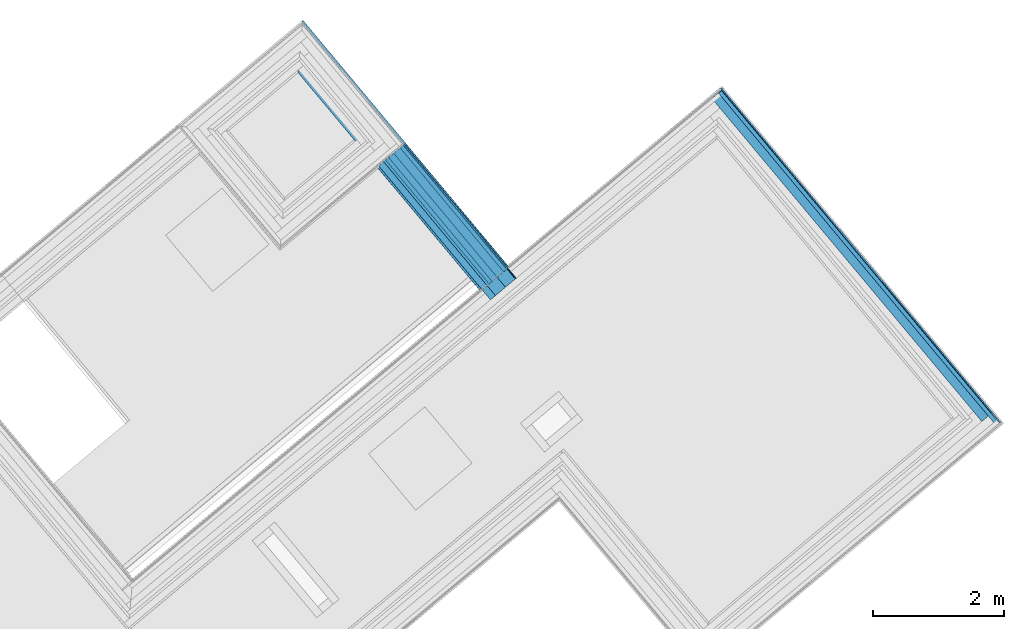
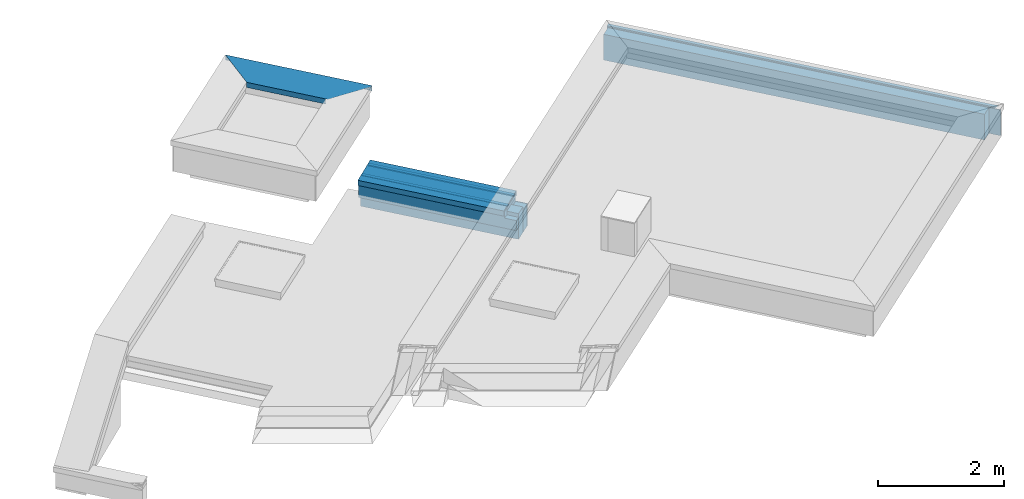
# One storey, part 13 of 15: 13 building element parts, 3 elements without a shape of their own.
"""IFC4 building model written with IfcOpenShell, lengths in metres."""

from ifc_helpers import new_model, entity, si_unit, converted_unit, derived_unit, direction, frame, origin_with_axes, place, context, subcontext, project, spatial, polygons, material, type_object, element, aggregate, save


model = new_model("IFC4")

# Units and contexts
model_context = context("Model", 3, precision=1e-05, world=origin_with_axes(), true_north=direction((0.0, 1.0)))
body_context = subcontext(model_context, "Body", "Model", "MODEL_VIEW")
ifc_project = project(units=[si_unit("LENGTHUNIT", "METRE"), si_unit("AREAUNIT", "SQUARE_METRE"), si_unit("VOLUMEUNIT", "CUBIC_METRE"), converted_unit("PLANEANGLEUNIT", "DEGREE", entity("IfcPlaneAngleMeasure", 0.0174532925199), si_unit("PLANEANGLEUNIT", "RADIAN"), dimensions=[0, 0, 0, 0, 0, 0, 0]), converted_unit("TIMEUNIT", "Year", entity("IfcTimeMeasure", 31556926.0), si_unit("TIMEUNIT", "SECOND"), dimensions=[0, 0, 1, 0, 0, 0, 0]), si_unit("MASSUNIT", "GRAM", prefix="KILO"), si_unit("THERMODYNAMICTEMPERATUREUNIT", "DEGREE_CELSIUS"), si_unit("LUMINOUSINTENSITYUNIT", "LUMEN"), si_unit("ENERGYUNIT", "JOULE", prefix="MEGA"), derived_unit("THERMALCONDUCTANCEUNIT", [(si_unit("POWERUNIT", "WATT"), 1), (si_unit("LENGTHUNIT", "METRE"), -1), (si_unit("THERMODYNAMICTEMPERATUREUNIT", "KELVIN"), -1)]), derived_unit("SPECIFICHEATCAPACITYUNIT", [(si_unit("ENERGYUNIT", "JOULE"), 1), (si_unit("MASSUNIT", "GRAM", prefix="KILO"), -1), (si_unit("THERMODYNAMICTEMPERATUREUNIT", "KELVIN"), -1)]), derived_unit("MASSDENSITYUNIT", [(si_unit("MASSUNIT", "GRAM", prefix="KILO"), 1), (si_unit("VOLUMEUNIT", "CUBIC_METRE"), -1)])], contexts=[model_context])

# Site, building, storey
site_placement = place(None, frame((-0.00153261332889, -0.00661245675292, 0.0), z_axis=(0.0, 0.0, 1.0), x_axis=(1.0, 0.0, 0.0)))
site = spatial("IfcSite", under=ifc_project, at=site_placement, Name="Site", CompositionType="ELEMENT")
building_placement = place(site_placement, origin_with_axes())
building = spatial("IfcBuilding", under=site, at=building_placement, Name="Building", CompositionType="ELEMENT")
storey_placement = place(building_placement, frame((0.0, 0.0, 11.84), z_axis=(0.0, 0.0, 1.0), x_axis=(1.0, 0.0, 0.0)))
storey = spatial("IfcBuildingStorey", under=building, at=storey_placement, Name="DA", CompositionType="ELEMENT", Elevation=11.84)

# Wall, building element part
wall_type_1 = type_object("IfcWallType", Name="Bauteil - Attika 574 x 610", PredefinedType="NOTDEFINED")
wall_1_placement = place(storey_placement, frame((1.62788776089, 27.3539711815, 0.96), z_axis=(0.0, 0.0, 1.0), x_axis=(0.641209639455, -0.767365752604, 0.0)))
wall_1 = element("IfcWall", 1, at=wall_1_placement, inside=storey, type_object=wall_type_1, Name="Wand-002", PredefinedType="NOTDEFINED")
ifc_material_1 = material(Name="Stahl")
building_element_part_1_placement = place(wall_1_placement, origin_with_axes())
building_element_part_1 = element("IfcBuildingElementPart", 2, at=building_element_part_1_placement, material=ifc_material_1, Name="Stahl", PredefinedType="NOTDEFINED", context=body_context, shape_type="Tessellation", body=[
    polygons([(0.332051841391, -0.332051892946, 0.491006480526), (0.332051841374, -0.332051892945, 0.489652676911), (1.67100741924, -0.332051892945, 0.489652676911), (1.67236122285, -0.332051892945, 0.491006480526), (1.67044667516, -0.332051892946, 0.491006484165), (1.67044667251, -0.332051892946, 0.498822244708), (1.67044667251, -0.332051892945, 0.499999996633), (1.67044667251, -0.332051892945, 0.509050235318), (1.67044667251, -0.332051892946, 0.51136132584), (1.67044667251, -0.332051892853, 0.519224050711), (1.67044667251, -0.332051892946, 0.560000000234), (1.67044667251, -0.332051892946, 0.56794797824), (1.67044667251, -0.332051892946, 0.57388065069), (1.67044667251, -0.332051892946, 0.575979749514), (1.67044667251, -0.332051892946, 0.584015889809), (1.67044667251, -0.332051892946, 0.586106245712), (1.6704466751, -0.332051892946, 0.587938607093), (0.332051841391, -0.332051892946, 0.589243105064), (0.332051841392, -0.332051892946, 0.587938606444), (0.332051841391, -0.332051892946, 0.586106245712), (0.332051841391, -0.332051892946, 0.584015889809), (0.332051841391, -0.332051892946, 0.575979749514), (0.332051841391, -0.332051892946, 0.573880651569), (0.332051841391, -0.332051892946, 0.567947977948), (0.332051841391, -0.332051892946, 0.560000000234), (0.332051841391, -0.332051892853, 0.519224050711), (0.332051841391, -0.332051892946, 0.51136132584), (0.332051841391, -0.332051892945, 0.509050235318), (0.332051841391, -0.332051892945, 0.499999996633), (0.332051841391, -0.332051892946, 0.498822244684), (0.332051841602, -0.330698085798, 0.491006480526), (0.332051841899, -0.32878353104, 0.491006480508), (0.332051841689, -0.33013733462, 0.489652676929), (0.331094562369, -0.331094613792, 0.488695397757), (1.67005013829, -0.331094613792, 0.488695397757), (1.67236121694, -0.328783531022, 0.491006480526), (1.67236122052, -0.330698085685, 0.491006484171), (1.67044667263, -0.330698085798, 0.491006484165), (1.67044666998, -0.330698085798, 0.498822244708), (1.67044666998, -0.330698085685, 0.499999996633), (1.67044666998, -0.330698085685, 0.509050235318), (1.67044666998, -0.330698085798, 0.51136132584), (1.67044666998, -0.330698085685, 0.519224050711), (1.67044666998, -0.330698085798, 0.560000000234), (1.67044666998, -0.330698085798, 0.56794797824), (1.67044666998, -0.330698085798, 0.57388065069), (1.67044666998, -0.330698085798, 0.575979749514), (1.67044666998, -0.330698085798, 0.584015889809), (1.67044666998, -0.330698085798, 0.586106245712), (1.67044671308, -0.330698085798, 0.587937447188), (1.67047086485, -0.332051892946, 0.587938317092), (0.332051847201, -0.294630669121, 0.589243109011), (0.332051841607, -0.330666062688, 0.587938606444), (0.332051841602, -0.330698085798, 0.587937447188), (0.332051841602, -0.330698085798, 0.586106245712), (0.332051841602, -0.330698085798, 0.584015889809), (0.332051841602, -0.330698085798, 0.575979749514), (0.332051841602, -0.330698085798, 0.573880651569), (0.332051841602, -0.330698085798, 0.567947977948), (0.332051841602, -0.330698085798, 0.560000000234), (0.332051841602, -0.330698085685, 0.519224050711), (0.332051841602, -0.330698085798, 0.51136132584), (0.332051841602, -0.330698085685, 0.509050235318), (0.332051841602, -0.330698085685, 0.499999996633), (0.332051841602, -0.330698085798, 0.498822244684), (0.330698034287, -0.330698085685, 0.491006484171), (0.330698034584, -0.328783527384, 0.491006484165), (0.323792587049, -0.321878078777, 0.497911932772), (1.67926665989, -0.321878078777, 0.497911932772), (1.67926666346, -0.323792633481, 0.497911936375), (1.67826241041, -0.32288233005, 0.498822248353), (0.322882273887, -0.32288233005, 0.498822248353), (2.2404201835, 0.239276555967, 0.608570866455), (2.24042025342, 0.201849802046, 0.608570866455), (1.70651414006, -0.332051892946, 0.589243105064), (-0.201849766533, 0.201849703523, 0.608570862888), (-0.201849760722, 0.239276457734, 0.608570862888), (2.24129656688, 0.202730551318, 0.608602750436), (2.24129649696, 0.240152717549, 0.608602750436), (2.24264401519, 0.202730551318, 0.608602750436), (2.24264394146, 0.241500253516, 0.610006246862), (-0.24150021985, 0.241500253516, 0.610006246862), (-0.202730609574, 0.202730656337, 0.608602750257), (-0.202730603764, 0.240152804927, 0.608602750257), (2.24264394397, 0.240152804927, 0.608602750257), (2.24264394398, 0.240146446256, 0.51136132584), (2.24264394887, 0.238231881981, 0.511361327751), (2.24264394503, 0.239585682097, 0.510007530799), (2.24264394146, 0.241500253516, 0.510007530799), (-0.240152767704, 0.241500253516, 0.608602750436), (-0.202730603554, 0.241500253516, 0.608602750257), (-0.239585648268, 0.241500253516, 0.510007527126), (-0.2382318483, 0.241500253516, 0.511361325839), (-0.240146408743, 0.241500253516, 0.51136132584), (-0.240146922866, 0.241500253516, 0.519224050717), (-0.240149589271, 0.241500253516, 0.560000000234), (-0.240150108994, 0.241500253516, 0.567947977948), (-0.240150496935, 0.241500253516, 0.573880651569), (-0.240150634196, 0.241500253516, 0.575979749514), (-0.240151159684, 0.241500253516, 0.584015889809), (-0.240151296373, 0.241500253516, 0.586106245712), (-0.240151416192, 0.241500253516, 0.587938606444), (-0.240152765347, 0.241500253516, 0.608570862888), (-0.240152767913, 0.240152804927, 0.608602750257), (-0.240152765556, 0.240152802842, 0.608570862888), (-0.240151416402, 0.240151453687, 0.587938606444), (-0.240151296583, 0.240151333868, 0.586106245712), (-0.240151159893, 0.240151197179, 0.584015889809), (-0.240150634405, 0.240150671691, 0.575979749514), (-0.240150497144, 0.24015053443, 0.573880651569), (-0.240150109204, 0.240150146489, 0.567947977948), (-0.240149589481, 0.240149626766, 0.560000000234), (-0.240146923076, 0.240146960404, 0.519224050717), (-0.240146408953, 0.240146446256, 0.51136132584), (-0.23823184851, 0.240146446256, 0.511361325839), (2.24129013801, 0.240146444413, 0.511361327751), (2.24129014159, 0.238231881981, 0.511361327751), (-0.231373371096, 0.231373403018, 0.518219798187), (-0.238231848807, 0.238231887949, 0.51136132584), (-0.240542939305, 0.240542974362, 0.509050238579), (2.24168666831, 0.240542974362, 0.509050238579), (2.23443167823, 0.231373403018, 0.518219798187), (-0.231373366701, 0.233287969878, 0.518219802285), (-0.232283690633, 0.232283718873, 0.51922405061), (2.23342742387, 0.232283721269, 0.519224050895)], [[[1, 2, 3, 4, 5, 6, 7, 8, 9, 10, 11, 12, 13, 14, 15, 16, 17, 18, 19, 20, 21, 22, 23, 24, 25, 26, 27, 28, 29, 30]], [[2, 1, 31, 32, 33]], [[2, 34, 35, 3]], [[3, 35, 36, 37, 4]], [[38, 5, 4, 37]], [[6, 5, 38, 39]], [[7, 6, 39, 40]], [[7, 40, 41, 8]], [[9, 8, 41, 42]], [[10, 9, 42, 43]], [[11, 10, 43, 44]], [[12, 11, 44, 45]], [[13, 12, 45, 46]], [[13, 46, 47, 14]], [[15, 14, 47, 48]], [[16, 15, 48, 49]], [[17, 16, 49, 50]], [[18, 17, 51]], [[19, 18, 52, 53, 54]], [[20, 19, 54, 55]], [[21, 20, 55, 56]], [[22, 21, 56, 57]], [[58, 23, 22, 57]], [[24, 23, 58, 59]], [[25, 24, 59, 60]], [[26, 25, 60, 61]], [[27, 26, 61, 62]], [[28, 27, 62, 63]], [[29, 28, 63, 64]], [[30, 29, 64, 65]], [[1, 30, 65, 31]], [[31, 66, 67, 32]], [[34, 33, 32, 67, 68, 69, 36, 35]], [[34, 2, 33]], [[37, 36, 69, 70]], [[66, 31, 38, 37, 70, 71, 72]], [[31, 65, 64, 63, 62, 61, 60, 59, 58, 57, 56, 55, 54, 50, 49, 48, 47, 46, 45, 44, 43, 42, 41, 40, 39, 38]], [[51, 17, 50, 73, 74, 75]], [[75, 18, 51]], [[52, 18, 76, 77]], [[54, 53, 52, 77, 73, 50]], [[67, 66, 72, 68]], [[68, 72, 71, 69]], [[71, 70, 69]], [[78, 74, 73, 79]], [[76, 18, 75, 74, 78, 80, 81, 82, 83]], [[76, 83, 84, 77]], [[77, 84, 79, 73]], [[80, 78, 79, 85]], [[86, 87, 88, 89, 81, 80, 85]], [[90, 91, 82, 81, 89, 92, 93, 94, 95, 96, 97, 98, 99, 100, 101, 102, 103]], [[83, 82, 91, 84]], [[84, 104, 105, 106, 107, 108, 109, 110, 111, 112, 113, 114, 115, 116, 86, 85, 79]], [[117, 87, 86, 116]], [[118, 119, 120, 121, 88, 87, 117, 122]], [[88, 121, 89]], [[84, 91, 90, 104]], [[120, 92, 89, 121]], [[120, 119, 115, 93, 92]], [[114, 94, 93, 115]], [[94, 114, 113, 95]], [[113, 112, 96, 95]], [[112, 111, 97, 96]], [[111, 110, 98, 97]], [[110, 109, 99, 98]], [[109, 108, 100, 99]], [[108, 107, 101, 100]], [[107, 106, 102, 101]], [[106, 105, 103, 102]], [[105, 104, 90, 103]], [[123, 124, 125, 116, 115]], [[122, 117, 116, 125]], [[118, 123, 115, 119]], [[124, 118, 122, 125]], [[118, 124, 123]]], closed=True),
])
aggregate(wall_1, [building_element_part_1])

# Wall, building element parts
wall_type_2 = type_object("IfcWallType", Name="Individuelles Profil 574 x 610", PredefinedType="NOTDEFINED")
wall_2_placement = place(storey_placement, frame((3.04882902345, 25.6533181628, -0.49), z_axis=(0.0, 0.0, 1.0), x_axis=(0.640875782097, -0.767644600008, 0.0)))
wall_2 = element("IfcWall", 3, at=wall_2_placement, inside=storey, type_object=wall_type_2, Name="Wand-004", PredefinedType="NOTDEFINED")
ifc_material_2 = material(Name="Zementputz")
building_element_part_2_placement = place(wall_2_placement, origin_with_axes())
building_element_part_2 = element("IfcBuildingElementPart", 4, at=building_element_part_2_placement, material=ifc_material_2, Name="Zementputz", PredefinedType="NOTDEFINED", context=body_context, shape_type="Tessellation", body=[
    polygons([(2.47622600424, 0.199999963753, 0.499999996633), (2.47621948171, 0.214999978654, 0.499999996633), (0.0, 0.214999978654, 0.5), (0.0, 0.199999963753, 0.5), (2.47621948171, 0.214999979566, 0.498822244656), (2.47622600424, 0.199999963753, 0.498822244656), (2.47621948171, 0.214999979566, 0.491006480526), (2.47621948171, 0.214999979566, 0.488695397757), (2.47621948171, 0.214999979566, 0.43), (2.67621946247, 0.214999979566, 0.43), (2.67630300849, 0.214999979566, 0.43), (2.67630300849, 0.214999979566, 0.0), (0.0, 0.214999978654, 0.0), (0.0, 0.199999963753, 0.0), (2.67630300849, 0.199999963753, 0.0), (2.67630300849, 0.199999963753, 0.43), (2.67622598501, 0.199999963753, 0.43), (2.47622600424, 0.199999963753, 0.43), (2.47622600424, 0.199999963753, 0.488695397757), (2.47622600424, 0.199999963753, 0.491006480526)], [[[1, 2, 3, 4]], [[5, 2, 1, 6]], [[2, 5, 7, 8, 9, 10, 11, 12, 13, 3]], [[14, 4, 3, 13]], [[6, 1, 4, 14, 15, 16, 17, 18, 19, 20]], [[5, 6, 20, 7]], [[7, 20, 19, 8]], [[8, 19, 18, 9]], [[17, 10, 9, 18]], [[10, 17, 16, 11]], [[11, 16, 15, 12]], [[13, 12, 15, 14]]], closed=True),
])
ifc_material_3 = material(Name="Vollholz")
building_element_part_3_placement = place(wall_2_placement, origin_with_axes())
building_element_part_3 = element("IfcBuildingElementPart", 5, at=building_element_part_3_placement, material=ifc_material_3, Name="Vollholz", PredefinedType="NOTDEFINED", context=body_context, shape_type="Tessellation", body=[
    polygons([(2.47625638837, 0.130124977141, 0.584015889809), (2.47623035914, 0.189984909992, 0.586106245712), (0.0, 0.189984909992, 0.586106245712), (0.0, 0.130124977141, 0.584015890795), (2.47623035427, 0.189996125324, 0.584015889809), (2.47623033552, 0.190039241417, 0.575979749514), (2.47623033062, 0.190050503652, 0.573880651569), (2.47623031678, 0.190082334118, 0.567947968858), (2.47623029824, 0.190124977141, 0.55999999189), (0.0, 0.190124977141, 0.560000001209), (0.0, 0.130124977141, 0.560000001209), (2.47625638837, 0.130124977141, 0.575979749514), (2.47625638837, 0.130124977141, 0.55999999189), (2.47625638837, 0.130124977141, 0.567947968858), (2.47625638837, 0.130124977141, 0.573880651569)], [[[1, 2, 3, 4]], [[5, 2, 1]], [[2, 5, 6, 7, 8, 9, 10, 3]], [[4, 3, 10, 11]], [[12, 1, 4, 11, 13, 14, 15]], [[5, 1, 12, 6]], [[6, 12, 15, 7]], [[7, 15, 14, 8]], [[8, 14, 13, 9]], [[9, 13, 11, 10]]], closed=True),
])
ifc_material_4 = material(Name="EPS 1")
building_element_part_4_placement = place(wall_2_placement, origin_with_axes())
building_element_part_4 = element("IfcBuildingElementPart", 6, at=building_element_part_4_placement, material=ifc_material_4, Name="EPS 1", PredefinedType="NOTDEFINED", context=body_context, shape_type="Tessellation", body=[
    polygons([(2.47631297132, -2.16659401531e-09, 0.43), (2.47631297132, -2.16659401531e-09, 0.488695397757), (2.47631297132, -2.16659756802e-09, 0.491006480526), (2.47631297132, -2.16659401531e-09, 0.498822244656), (2.47631297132, -2.16659401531e-09, 0.499999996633), (0.0, -2.16659046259e-09, 0.5), (0.0, -2.16659046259e-09, 0.0), (2.67630300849, -2.16659401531e-09, 0.0), (2.67630300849, -2.16659401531e-09, 0.430000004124), (2.47622600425, 0.19999996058, 0.43), (2.47622600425, 0.19999996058, 0.488695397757), (2.47622600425, 0.19999996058, 0.491006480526), (2.47622600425, 0.19999996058, 0.498822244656), (2.47622600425, 0.19999996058, 0.499999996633), (0.0, 0.19999996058, 0.5), (0.0, 0.19999996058, 0.0), (2.67630300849, 0.19999996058, 0.0), (2.67630300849, 0.19999996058, 0.430000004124), (2.67630300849, 0.0228656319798, 0.430000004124), (2.67622598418, 0.19999996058, 0.43)], [[[1, 2, 3, 4, 5, 6, 7, 8, 9]], [[2, 1, 10, 11]], [[3, 2, 11, 12]], [[4, 3, 12, 13]], [[5, 4, 13, 14]], [[6, 5, 14, 15]], [[7, 6, 15, 16]], [[7, 16, 17, 8]], [[9, 8, 17, 18, 19]], [[1, 9, 19, 20, 10]], [[16, 15, 14, 13, 12, 11, 10, 20, 18, 17]], [[19, 18, 20]]], closed=True),
])
ifc_material_5 = material(Name="Brettschichtholz")
building_element_part_5_placement = place(wall_2_placement, origin_with_axes())
building_element_part_5 = element("IfcBuildingElementPart", 7, at=building_element_part_5_placement, material=ifc_material_5, Name="Brettschichtholz", PredefinedType="NOTDEFINED", context=body_context, shape_type="Tessellation", body=[
    polygons([(2.47623029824, 0.190124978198, 0.55999999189), (2.47621948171, 0.214999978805, 0.55999999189), (0.0, 0.214999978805, 0.55999999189), (0.0, 0.190124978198, 0.560000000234), (2.47621948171, 0.214999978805, 0.519224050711), (2.47625638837, 0.130124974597, 0.55999999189), (2.47635645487, -0.0999999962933, 0.55999999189), (2.476382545, -0.159999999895, 0.55999999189), (2.47639993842, -0.200000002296, 0.55999999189), (2.47639993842, -0.200000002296, 0.519224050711), (2.47621948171, 0.214999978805, 0.51136132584), (2.47621948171, 0.214999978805, 0.509050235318), (2.47621948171, 0.214999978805, 0.499999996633), (0.0, 0.214999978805, 0.499999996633), (0.0, -0.200000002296, 0.499999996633), (0.0, -0.200000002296, 0.560000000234), (0.0, -0.159999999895, 0.560000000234), (0.0, -0.0999999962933, 0.560000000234), (0.0, 0.130124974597, 0.560000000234), (2.47639993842, -0.200000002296, 0.499999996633), (2.47639993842, -0.200000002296, 0.509050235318), (2.47639993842, -0.200000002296, 0.51136132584)], [[[1, 2, 3, 4]], [[5, 2, 1, 6, 7, 8, 9, 10]], [[2, 5, 11, 12, 13, 14, 3]], [[4, 3, 14, 15, 16, 17, 18, 19]], [[6, 1, 4, 19]], [[7, 6, 19, 18]], [[8, 7, 18, 17]], [[9, 8, 17, 16]], [[10, 9, 16, 15, 20, 21, 22]], [[5, 10, 22, 11]], [[11, 22, 21, 12]], [[12, 21, 20, 13]], [[13, 20, 15, 14]]], closed=True),
])
ifc_material_6 = material(Name="Stahlbeton Wand Garage")
building_element_part_6_placement = place(wall_2_placement, origin_with_axes())
building_element_part_6 = element("IfcBuildingElementPart", 8, at=building_element_part_6_placement, material=ifc_material_6, Name="Stahlbeton Wand Garage", PredefinedType="NOTDEFINED", context=body_context, shape_type="Tessellation", body=[
    polygons([(2.67639991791, -0.2, 0.499999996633), (2.67631295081, 0.0, 0.499999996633), (0.0, 0.0, 0.5), (0.0, -0.2, 0.5), (2.67631295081, 0.0, 0.498822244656), (2.67639991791, -0.200000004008, 0.498822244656), (2.67631295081, 0.0, 0.491006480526), (2.67631295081, 0.0, 0.488695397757), (2.67631295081, 4.32326885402e-09, 0.43), (2.67630300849, 0.0, 0.0), (0.0, 0.0, 0.0), (0.0, -0.2, 0.0), (0.0, -0.200000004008, 0.235000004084), (2.67630300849, -0.200000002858, 0.234999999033), (2.67630300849, -0.200000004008, 0.430000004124), (2.67639991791, -0.200000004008, 0.43), (2.67639991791, -0.200000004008, 0.488695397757), (2.67639991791, -0.200000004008, 0.491006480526), (2.67630300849, -0.200000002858, 0.0)], [[[1, 2, 3, 4]], [[5, 2, 1, 6]], [[2, 5, 7, 8, 9, 10, 11, 3]], [[12, 13, 4, 3, 11]], [[6, 1, 4, 13, 14, 15, 16, 17, 18]], [[5, 6, 18, 7]], [[7, 18, 17, 8]], [[8, 17, 16, 9]], [[19, 10, 9, 15, 14]], [[11, 10, 19, 12]], [[12, 19, 14, 13]], [[9, 16, 15]]], closed=True),
])
building_element_part_7_placement = place(wall_2_placement, origin_with_axes())
building_element_part_7 = element("IfcBuildingElementPart", 9, at=building_element_part_7_placement, material=ifc_material_3, Name="Vollholz", PredefinedType="NOTDEFINED", context=body_context, shape_type="Tessellation", body=[
    polygons([(2.47638259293, -0.160110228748, 0.573880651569), (2.47635645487, -0.1, 0.575979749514), (0.0, -0.1, 0.575979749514), (0.0, -0.160110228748, 0.573880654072), (2.47635645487, -0.1, 0.573880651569), (2.47635645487, -0.1, 0.567947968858), (2.47635645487, -0.1, 0.55999999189), (0.0, -0.1, 0.560000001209), (0.0, -0.16, 0.560000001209), (2.47638257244, -0.160063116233, 0.567947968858), (2.476382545, -0.16, 0.55999999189)], [[[1, 2, 3, 4]], [[5, 2, 1]], [[2, 5, 6, 7, 8, 3]], [[4, 3, 8, 9]], [[10, 1, 4, 9, 11]], [[5, 1, 10, 6]], [[6, 10, 11, 7]], [[7, 11, 9, 8]]], closed=True),
])
building_element_part_8_placement = place(wall_2_placement, origin_with_axes())
building_element_part_8 = element("IfcBuildingElementPart", 10, at=building_element_part_8_placement, material=ifc_material_4, Name="EPS 1", PredefinedType="NOTDEFINED", context=body_context, shape_type="Tessellation", body=[
    polygons([(2.47644342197, -0.300000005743, 0.488695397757), (2.47644342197, -0.300000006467, 0.43), (2.47639993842, -0.200000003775, 0.43), (2.47639993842, -0.200000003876, 0.488695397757), (2.47644342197, -0.300000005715, 0.491006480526), (2.47644342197, -0.300000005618, 0.498822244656), (2.47644342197, -0.300000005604, 0.499999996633), (2.47644342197, -0.300000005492, 0.509050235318), (2.47644342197, -0.300000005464, 0.51136132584), (2.47644342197, -0.300000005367, 0.519224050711), (2.47644342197, -0.300000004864, 0.55999999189), (0.0, -0.30000000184, 0.560000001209), (0.0, -0.30000000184, 0.235000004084), (2.67630300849, -0.300000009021, 0.234999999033), (2.67630300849, -0.300000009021, 0.430000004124), (2.67630300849, -0.200000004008, 0.430000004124), (0.0, -0.200000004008, 0.235000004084), (0.0, -0.200000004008, 0.560000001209), (2.47639993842, -0.200000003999, 0.55999999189), (2.47639993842, -0.200000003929, 0.519224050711), (2.47639993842, -0.200000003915, 0.51136132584), (2.47639993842, -0.200000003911, 0.509050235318), (2.47639993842, -0.200000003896, 0.499999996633), (2.47639993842, -0.200000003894, 0.498822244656), (2.47639993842, -0.20000000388, 0.491006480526), (2.67630300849, -0.200000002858, 0.234999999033)], [[[1, 2, 3, 4]], [[2, 1, 5, 6, 7, 8, 9, 10, 11, 12, 13, 14, 15]], [[3, 2, 15, 16]], [[17, 18, 19, 20, 21, 22, 23, 24, 25, 4, 3, 16, 26]], [[5, 1, 4, 25]], [[6, 5, 25, 24]], [[7, 6, 24, 23]], [[8, 7, 23, 22]], [[9, 8, 22, 21]], [[10, 9, 21, 20]], [[11, 10, 20, 19]], [[12, 11, 19, 18]], [[13, 12, 18, 17]], [[13, 17, 26, 14]], [[26, 16, 15, 14]]], closed=True),
])
ifc_material_7 = material(Name="Holzwerkstoff")
building_element_part_9_placement = place(wall_2_placement, origin_with_axes())
building_element_part_9 = element("IfcBuildingElementPart", 11, at=building_element_part_9_placement, material=ifc_material_7, Name="Holzwerkstoff", PredefinedType="NOTDEFINED", context=body_context, shape_type="Tessellation", body=[
    polygons([(2.47620892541, 0.239276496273, 0.608570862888), (2.4762086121, 0.239997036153, 0.587937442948), (2.47620861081, 0.239999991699, 0.587852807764), (0.0, 0.239999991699, 0.587852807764), (0.0, 0.239276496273, 0.608570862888), (2.47645677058, -0.330698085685, 0.587937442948), (2.47645674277, -0.330634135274, 0.586106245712), (2.47623035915, 0.189984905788, 0.586106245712), (0.0, 0.189984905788, 0.586106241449), (0.0, -0.330698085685, 0.587937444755), (0.0, 0.130124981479, 0.584015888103), (0.0, -0.0999999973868, 0.575979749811), (0.0, -0.160110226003, 0.573880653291), (0.0, -0.329999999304, 0.567947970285), (2.47645646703, -0.329999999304, 0.567947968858), (2.47645655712, -0.330207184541, 0.573880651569), (2.476456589, -0.330280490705, 0.575979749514), (2.47645671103, -0.330561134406, 0.584015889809), (2.47625638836, 0.130124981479, 0.584015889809), (2.47635645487, -0.0999999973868, 0.575979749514), (2.47638259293, -0.160110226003, 0.573880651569)], [[[1, 2, 3, 4, 5]], [[6, 2, 1]], [[2, 6, 7, 8, 3]], [[3, 8, 9, 4]], [[10, 5, 4, 9, 11, 12, 13, 14]], [[6, 1, 5, 10]], [[7, 6, 10, 14, 15, 16, 17, 18]], [[8, 7, 18, 19]], [[8, 19, 11, 9]], [[19, 20, 12, 11]], [[20, 21, 13, 12]], [[21, 15, 14, 13]], [[21, 16, 15]], [[20, 17, 16, 21]], [[19, 18, 17, 20]]], closed=True),
])
building_element_part_10_placement = place(wall_2_placement, origin_with_axes())
building_element_part_10 = element("IfcBuildingElementPart", 12, at=building_element_part_10_placement, material=ifc_material_1, Name="Stahl", PredefinedType="NOTDEFINED", context=body_context, shape_type="Tessellation", body=[
    polygons([(2.47645735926, -0.332051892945, 0.498822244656), (2.47645735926, -0.332051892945, 0.491006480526), (2.47645677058, -0.330698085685, 0.491006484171), (2.47645677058, -0.330698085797, 0.498822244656), (0.0, -0.332051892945, 0.489652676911), (2.47645735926, -0.332051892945, 0.489652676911), (2.47645735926, -0.332051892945, 0.500000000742), (2.47645735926, -0.332051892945, 0.509050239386), (2.47645735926, -0.332051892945, 0.51136132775), (2.47645735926, -0.332051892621, 0.519224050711), (2.47645735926, -0.332051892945, 0.559999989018), (2.47645735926, -0.332051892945, 0.567947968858), (2.47645735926, -0.332051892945, 0.573880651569), (2.47645735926, -0.332051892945, 0.575979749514), (2.47645735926, -0.332051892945, 0.584015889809), (2.47645735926, -0.332051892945, 0.586106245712), (2.47645735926, -0.332051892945, 0.587937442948), (2.47645735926, -0.332051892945, 0.58924311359), (0.0, -0.332051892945, 0.589243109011), (2.476456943, -0.331094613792, 0.488695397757), (2.47645593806, -0.328783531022, 0.491006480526), (0.0, -0.330698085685, 0.491006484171), (0.0, -0.330698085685, 0.587937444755), (2.47645677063, -0.330698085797, 0.587937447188), (2.47645677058, -0.330698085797, 0.586106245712), (2.47645677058, -0.330698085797, 0.584015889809), (2.47645677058, -0.330698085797, 0.575979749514), (2.47645677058, -0.330698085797, 0.573880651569), (2.47645677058, -0.330698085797, 0.567947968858), (2.47645677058, -0.330698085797, 0.559999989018), (2.47645677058, -0.330698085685, 0.519224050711), (2.47645677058, -0.330698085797, 0.51136132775), (2.47645677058, -0.330698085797, 0.509050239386), (2.47645677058, -0.330698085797, 0.500000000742), (0.0, -0.331094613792, 0.488695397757), (2.47620892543, 0.239276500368, 0.608570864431), (2.47622519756, 0.201855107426, 0.608570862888), (2.47622481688, 0.202730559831, 0.608602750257), (2.47620795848, 0.241500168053, 0.610006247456), (0.0, 0.241500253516, 0.610006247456), (0.0, 0.241500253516, 0.510007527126), (0.0, 0.240542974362, 0.509050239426), (0.0, 0.231373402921, 0.518219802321), (0.0, 0.232283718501, 0.519224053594), (0.0, 0.240146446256, 0.51136132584), (0.0, 0.240152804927, 0.608602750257), (0.0, 0.239276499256, 0.608570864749), (0.0, -0.32288233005, 0.498822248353), (0.0, -0.321878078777, 0.497911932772), (2.47645293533, -0.321878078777, 0.497911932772), (2.47645337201, -0.32288233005, 0.498822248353), (2.47620854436, 0.240152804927, 0.608602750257), (2.47620795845, 0.241500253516, 0.608602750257), (2.47620795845, 0.241500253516, 0.608570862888), (2.47620795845, 0.241500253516, 0.587937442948), (2.47620795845, 0.241500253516, 0.586106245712), (2.47620795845, 0.241500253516, 0.584015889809), (2.47620795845, 0.241500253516, 0.575979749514), (2.47620795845, 0.241500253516, 0.573880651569), (2.47620795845, 0.241500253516, 0.567947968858), (2.47620795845, 0.241500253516, 0.55999999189), (2.47620795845, 0.241500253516, 0.519224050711), (2.47620795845, 0.241500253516, 0.51136132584), (2.47620795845, 0.241500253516, 0.510007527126), (2.4762083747, 0.240542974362, 0.509050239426), (2.47620937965, 0.238231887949, 0.51136132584), (2.47621236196, 0.231373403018, 0.518219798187), (2.47621196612, 0.232283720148, 0.519224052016), (2.47620854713, 0.240146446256, 0.51136132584), (2.47620854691, 0.240146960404, 0.519224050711), (2.47620854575, 0.240149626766, 0.55999999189), (2.47620854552, 0.240150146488, 0.567947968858), (2.47620854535, 0.24015053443, 0.573880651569), (2.47620854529, 0.240150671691, 0.575979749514), (2.47620854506, 0.240151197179, 0.584015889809), (2.476208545, 0.240151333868, 0.586106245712), (2.47620854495, 0.240151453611, 0.587937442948), (2.47620854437, 0.240152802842, 0.608570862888)], [[[1, 2, 3, 4]], [[5, 6, 2, 1, 7, 8, 9, 10, 11, 12, 13, 14, 15, 16, 17, 18, 19]], [[2, 6, 20, 21, 3]], [[3, 22, 23, 24, 25, 26, 27, 28, 29, 30, 31, 32, 33, 34, 4]], [[1, 4, 34, 7]], [[6, 5, 35, 20]], [[7, 34, 33, 8]], [[9, 8, 33, 32]], [[10, 9, 32, 31]], [[11, 10, 31, 30]], [[12, 11, 30, 29]], [[13, 12, 29, 28]], [[14, 13, 28, 27]], [[14, 27, 26, 15]], [[16, 15, 26, 25]], [[17, 16, 25, 24]], [[18, 17, 24, 36, 37]], [[19, 18, 37, 38, 39, 40]], [[35, 5, 19, 40, 41, 42, 43, 44, 45, 46, 47, 23, 22, 48, 49]], [[20, 35, 49, 50, 21]], [[3, 21, 50, 51]], [[22, 3, 51, 48]], [[24, 23, 47, 36]], [[38, 37, 36, 52]], [[38, 52, 53, 39]], [[41, 40, 39, 53, 54, 55, 56, 57, 58, 59, 60, 61, 62, 63, 64]], [[42, 41, 64, 65]], [[43, 42, 65, 66, 67]], [[44, 43, 67, 68]], [[45, 44, 68, 69]], [[46, 45, 69, 70, 71, 72, 73, 74, 75, 76, 77, 78, 52]], [[47, 46, 52, 36]], [[49, 48, 51, 50]], [[52, 78, 54, 53]], [[78, 77, 55, 54]], [[77, 76, 56, 55]], [[75, 57, 56, 76]], [[74, 58, 57, 75]], [[74, 73, 59, 58]], [[73, 72, 60, 59]], [[72, 71, 61, 60]], [[71, 70, 62, 61]], [[70, 69, 63, 62]], [[69, 66, 65, 64, 63]], [[68, 67, 66, 69]]], closed=True),
])
aggregate(wall_2, [building_element_part_2, building_element_part_3, building_element_part_4, building_element_part_5, building_element_part_6, building_element_part_7, building_element_part_8, building_element_part_9, building_element_part_10])

wall_3_placement = place(storey_placement, frame((8.04940660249, 26.3441297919, 0.0), z_axis=(0.0, 0.0, 1.0), x_axis=(0.641209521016, -0.767365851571, 0.0)))
wall_3 = element("IfcWall", 13, at=wall_3_placement, inside=storey, type_object=wall_type_2, Name="Wand-004", PredefinedType="NOTDEFINED")
building_element_part_11_placement = place(wall_3_placement, origin_with_axes())
building_element_part_11 = element("IfcBuildingElementPart", 14, at=building_element_part_11_placement, material=ifc_material_2, Name="Zementputz", PredefinedType="NOTDEFINED", context=body_context, shape_type="Tessellation", body=[
    polygons([(6.45742309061, 0.199999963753, 0.5), (6.45741332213, 0.214999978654, 0.5), (-0.214999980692, 0.214999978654, 0.500000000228), (-0.214999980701, 0.199999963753, 0.500000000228), (6.45741332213, 0.214999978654, 0.498822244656), (6.45742309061, 0.199999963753, 0.498822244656), (6.45741332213, 0.214999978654, 0.491006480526), (6.45741332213, 0.214999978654, 0.488695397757), (6.45741332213, 0.214999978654, 0.235000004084), (6.45741332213, 0.214999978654, 0.0), (-0.214999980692, 0.214999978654, 0.0), (-0.214999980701, 0.199999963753, 0.0), (6.45742309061, 0.199999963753, 0.0), (6.45742309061, 0.199999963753, 0.235000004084), (6.45742309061, 0.199999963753, 0.488695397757), (6.45742309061, 0.199999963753, 0.491006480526)], [[[1, 2, 3, 4]], [[5, 2, 1, 6]], [[2, 5, 7, 8, 9, 10, 11, 3]], [[12, 4, 3, 11]], [[6, 1, 4, 12, 13, 14, 15, 16]], [[5, 6, 16, 7]], [[7, 16, 15, 8]], [[8, 15, 14, 9]], [[9, 14, 13, 10]], [[10, 13, 12, 11]]], closed=True),
])
building_element_part_12_placement = place(wall_3_placement, origin_with_axes())
building_element_part_12 = element("IfcBuildingElementPart", 15, at=building_element_part_12_placement, material=ifc_material_3, Name="Vollholz", PredefinedType="NOTDEFINED", context=body_context, shape_type="Tessellation", body=[
    polygons([(-0.190082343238, 0.130124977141, 0.567947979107), (-0.190050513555, 0.130124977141, 0.573880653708), (-0.190050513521, 0.19005050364, 0.573880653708), (-0.190082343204, 0.190082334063, 0.567947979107), (-0.190039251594, 0.130124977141, 0.575979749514), (-0.190124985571, 0.130124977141, 0.560000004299), (6.38759359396, 0.130124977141, 0.560000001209), (6.38759359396, 0.130124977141, 0.567947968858), (6.38759359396, 0.130124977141, 0.573880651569), (6.38759359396, 0.130124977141, 0.575979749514), (6.38759359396, 0.130124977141, 0.584015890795), (-0.189996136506, 0.130124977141, 0.584015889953), (-0.19003925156, 0.190039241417, 0.575979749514), (6.38755457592, 0.190039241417, 0.575979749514), (6.38755456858, 0.190050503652, 0.573880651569), (6.38755454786, 0.190082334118, 0.567947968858), (6.38755452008, 0.190124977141, 0.560000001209), (-0.190124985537, 0.190124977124, 0.560000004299), (-0.189996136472, 0.189996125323, 0.584015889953), (-0.189984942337, 0.189984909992, 0.586106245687), (6.44741455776, 0.189984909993, 0.586106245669), (6.387554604, 0.189996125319, 0.584015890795)], [[[1, 2, 3, 4]], [[5, 2, 1, 6, 7, 8, 9, 10, 11, 12]], [[2, 5, 13, 3]], [[14, 15, 16, 17, 18, 4, 3, 13, 19, 20, 21, 22]], [[6, 1, 4, 18]], [[7, 6, 18, 17]], [[8, 7, 17, 16]], [[9, 8, 16, 15]], [[10, 9, 15, 14]], [[11, 10, 14, 22]], [[20, 12, 11, 21]], [[5, 12, 19, 13]], [[12, 20, 19]], [[11, 22, 21]]], closed=True),
])
building_element_part_13_placement = place(wall_3_placement, origin_with_axes())
building_element_part_13 = element("IfcBuildingElementPart", 16, at=building_element_part_13_placement, material=ifc_material_4, Name="EPS 1", PredefinedType="NOTDEFINED", context=body_context, shape_type="Tessellation", body=[
    polygons([(-0.199999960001, 0.19999996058, 0.498822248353), (-0.199999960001, 0.19999996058, 0.5), (6.25742308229, 0.19999996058, 0.5), (6.25742308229, 0.19999996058, 0.498822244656), (6.25742308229, 0.19999996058, 0.491006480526), (6.25742308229, 0.19999996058, 0.488695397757), (6.25742308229, 0.19999996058, 0.235000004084), (6.25742308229, 0.19999996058, 0.0), (-0.199999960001, 0.19999996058, 0.0), (-0.199999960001, 0.19999996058, 0.235000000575), (-0.199999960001, 0.19999996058, 0.488695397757), (-0.199999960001, 0.19999996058, 0.491006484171), (-0.199999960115, -2.16659401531e-09, 0.5), (-0.199999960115, -2.16659401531e-09, 0.498822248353), (6.25755332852, -2.16659401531e-09, 0.5), (6.25755332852, -2.16659046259e-09, 0.498822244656), (6.25755332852, -2.16659046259e-09, 0.491006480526), (6.25755332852, -2.16659046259e-09, 0.488695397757), (6.25755332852, -2.16659046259e-09, 0.235000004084), (6.25755332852, -2.16658690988e-09, 0.0), (-0.199999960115, -2.16659046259e-09, 0.0), (-0.199999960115, -2.16659401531e-09, 0.235000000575), (-0.199999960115, -2.16659401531e-09, 0.488695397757), (-0.199999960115, -2.16659401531e-09, 0.491006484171)], [[[1, 2, 3, 4, 5, 6, 7, 8, 9, 10, 11, 12]], [[13, 2, 1, 14]], [[2, 13, 15, 3]], [[4, 3, 15, 16]], [[4, 16, 17, 5]], [[5, 17, 18, 6]], [[6, 18, 19, 7]], [[7, 19, 20, 8]], [[21, 9, 8, 20]], [[22, 10, 9, 21]], [[23, 11, 10, 22]], [[24, 12, 11, 23]], [[14, 1, 12, 24]], [[13, 14, 24, 23, 22, 21, 20, 19, 18, 17, 16, 15]]], closed=True),
])
aggregate(wall_3, [building_element_part_11, building_element_part_12, building_element_part_13])

save(model, "model.ifc")
